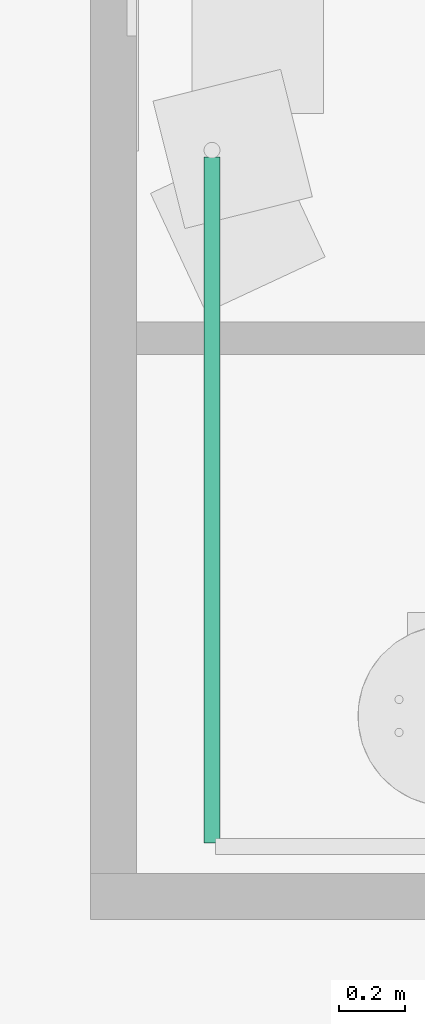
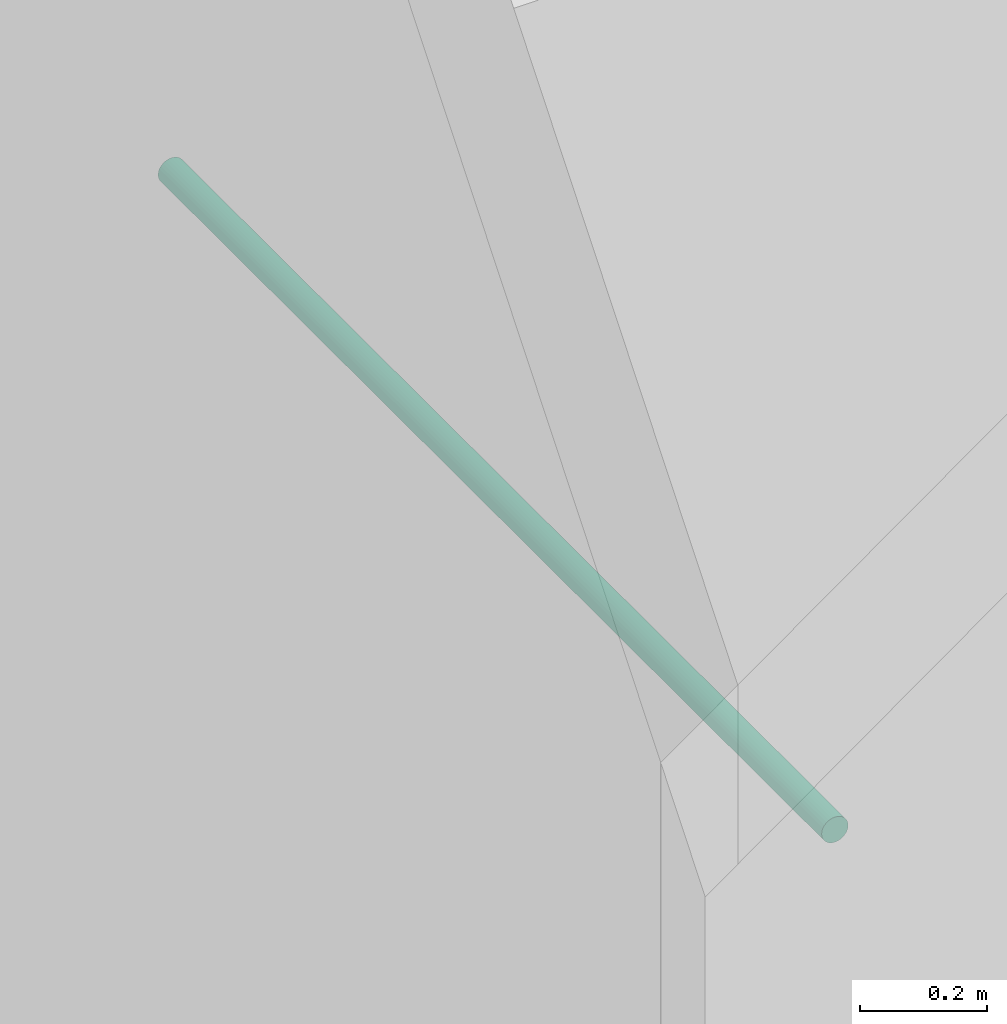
# One storey, part 35 of 69: 1 pipe segment.
"""IFC4 building model written with IfcOpenShell, lengths in centimetres."""

from ifc_helpers import new_model, entity, si_unit, converted_unit, derived_unit, direction, frame, origin, place, context, subcontext, project, spatial, arc, indexed_curve, outline, extrude, type_object, element, save


model = new_model("IFC4")

# Units and contexts
model_context = context("Model", 3, precision=0.001, world=origin(), true_north=direction((6.123233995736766e-17, 1.0)))
body_context = subcontext(model_context, "Body", "Model", "MODEL_VIEW")
ifc_project = project(units=[si_unit("LENGTHUNIT", "METRE", prefix="CENTI"), si_unit("AREAUNIT", "SQUARE_METRE"), si_unit("VOLUMEUNIT", "CUBIC_METRE"), derived_unit("THERMALTRANSMITTANCEUNIT", [(si_unit("MASSUNIT", "GRAM", prefix="KILO"), 1), (si_unit("THERMODYNAMICTEMPERATUREUNIT", "KELVIN"), -1), (si_unit("TIMEUNIT", "SECOND"), -3)]), converted_unit("PLANEANGLEUNIT", "DEGREE", entity("IfcPlaneAngleMeasure", 0.017453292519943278), si_unit("PLANEANGLEUNIT", "RADIAN"), dimensions=[0, 0, 0, 0, 0, 0, 0]), derived_unit("MASSDENSITYUNIT", [(si_unit("MASSUNIT", "GRAM", prefix="KILO"), 1), (si_unit("LENGTHUNIT", "METRE"), -3)]), derived_unit("VAPORPERMEABILITYUNIT", [(si_unit("LENGTHUNIT", "METRE"), -1), (si_unit("TIMEUNIT", "SECOND"), 1)]), derived_unit("USERDEFINED", [(si_unit("MASSUNIT", "GRAM", prefix="KILO"), 1), (si_unit("TIMEUNIT", "SECOND"), -3), (si_unit("LENGTHUNIT", "METRE"), 3), (si_unit("ELECTRICCURRENTUNIT", "AMPERE"), -2)]), derived_unit("SPECIFICHEATCAPACITYUNIT", [(si_unit("THERMODYNAMICTEMPERATUREUNIT", "KELVIN"), -1), (si_unit("LENGTHUNIT", "METRE"), 2), (si_unit("TIMEUNIT", "SECOND"), -2)]), derived_unit("THERMALCONDUCTANCEUNIT", [(si_unit("MASSUNIT", "GRAM", prefix="KILO"), 1), (si_unit("THERMODYNAMICTEMPERATUREUNIT", "KELVIN"), -1), (si_unit("TIMEUNIT", "SECOND"), -3), (si_unit("LENGTHUNIT", "METRE"), 1)]), si_unit("PRESSUREUNIT", "PASCAL"), derived_unit("MODULUSOFELASTICITYUNIT", [(si_unit("MASSUNIT", "GRAM", prefix="KILO"), 1), (si_unit("LENGTHUNIT", "METRE"), -1), (si_unit("TIMEUNIT", "SECOND"), -2)]), derived_unit("THERMALEXPANSIONCOEFFICIENTUNIT", [(si_unit("THERMODYNAMICTEMPERATUREUNIT", "KELVIN"), -1)])], contexts=[model_context])

# Site, building, storey
site_placement = place(None, origin())
site = spatial("IfcSite", under=ifc_project, at=site_placement, Name="Default", CompositionType="ELEMENT")
building_placement = place(site_placement, origin())
building = spatial("IfcBuilding", under=site, at=building_placement, Name="IDS Escape Game Building", CompositionType="ELEMENT")
storey_placement = place(building_placement, origin())
storey = spatial("IfcBuildingStorey", under=building, at=storey_placement, Name="00_Ground Floor", CompositionType="ELEMENT", Elevation=0.0)

# Pipe segment
pipe_segment_type = type_object("IfcPipeSegmentType", Name="Pipe Types:Piping Aluminum", PredefinedType="NOTDEFINED")
pipe_segment_placement = place(storey_placement, origin())
element("IfcPipeSegment", 1, at=pipe_segment_placement, inside=storey, type_object=pipe_segment_type, Name="Pipe Types:Piping Aluminum", ObjectType="Pipe Types:Piping Aluminum", PredefinedType="NOTDEFINED", context=body_context, shape_type="SweptSolid", body=[
    extrude(outline(indexed_curve([(2.412999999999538, 0.0), (1.7062486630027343, 1.7062486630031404), (-4.331468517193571e-13, 2.412999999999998), (-1.7062486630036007, 1.7062486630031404), (-2.4130000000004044, 2.7071678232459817e-14), (-1.7062486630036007, -1.7062486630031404), (-4.331468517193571e-13, -2.412999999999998), (1.7062486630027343, -1.7062486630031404)], segments=[arc(1, 2, 3), arc(3, 4, 5), arc(5, 6, 7), arc(7, 8, 1)], self_intersect=False)), frame((3720.0467168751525, 1298.3648279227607, 242.0), z_axis=(0.0, 1.0, 0.0), x_axis=(1.0, 0.0, 0.0)), (0.0, 0.0, 1.0), 208.80000000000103),
])

save(model, "model.ifc")
